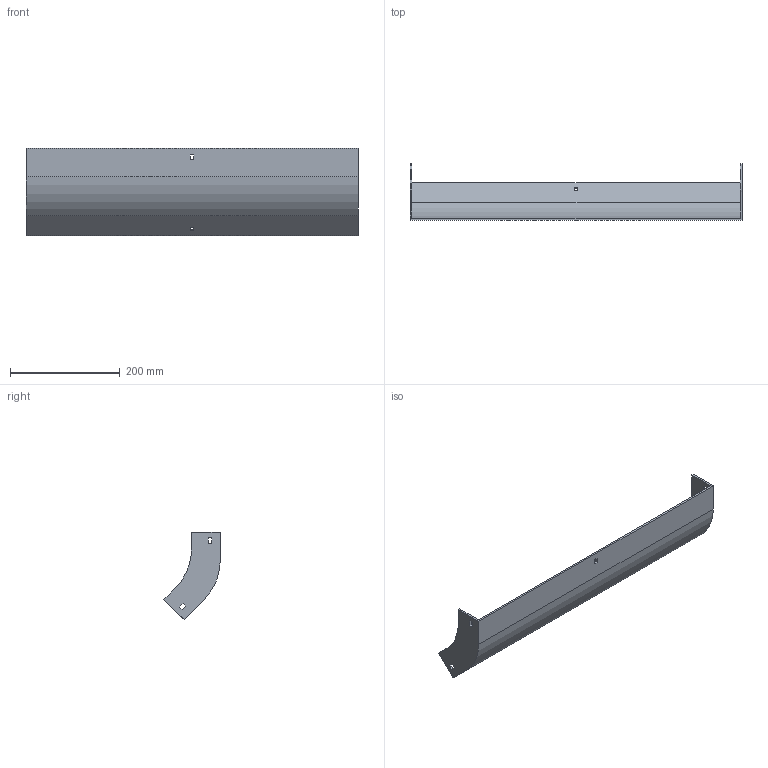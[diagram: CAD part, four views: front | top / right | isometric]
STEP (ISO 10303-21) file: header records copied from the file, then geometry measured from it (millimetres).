
FILE_DESCRIPTION (( 'STEP AP214' ), '1' );
FILE_NAME ('31F1B600.step', '2025-02-21T13:00:26', ( '' ), ( '' ), 'SwSTEP 2.0', 'SolidWorks 2023', '' );
FILE_SCHEMA (( 'AUTOMOTIVE_DESIGN' ));
Length unit declared in the file: millimetre
Products named in the file (1): 31F1B600
Bounding box: 604 x 102.5 x 158.69 mm (x, y, z)
Volume: 435064.4 mm3; surface area: 255187.7 mm2
Topology: 1 solids, 1 shells, 42 faces, 120 edges, 80 vertices
Faces by surface type: plane 38, cylinder 4
Entity records: 1399 total; most frequent: CARTESIAN_POINT 243, ORIENTED_EDGE 240, DIRECTION 214, EDGE_CURVE 120, LINE 112, VECTOR 112, VERTEX_POINT 80, EDGE_LOOP 54
